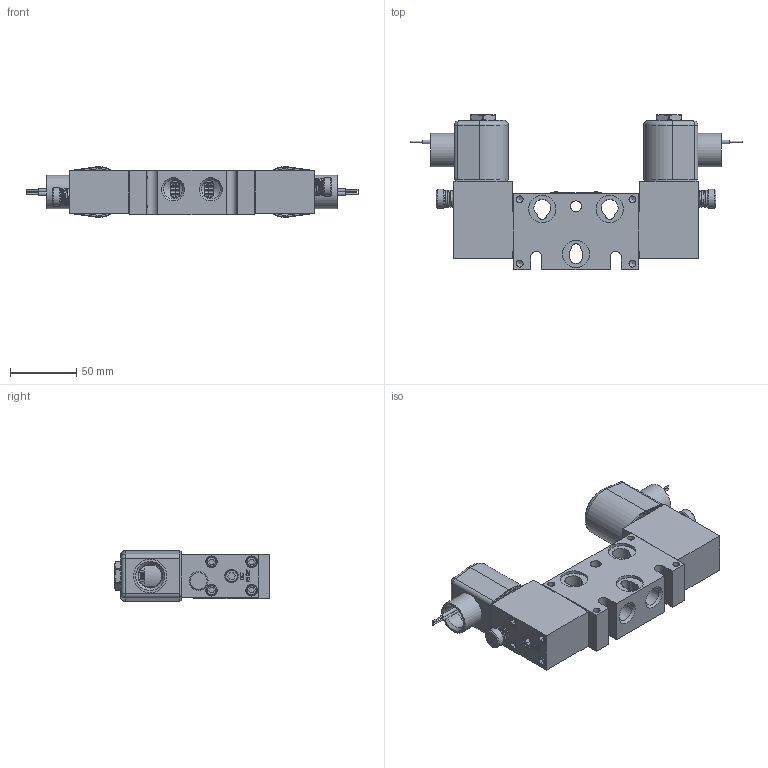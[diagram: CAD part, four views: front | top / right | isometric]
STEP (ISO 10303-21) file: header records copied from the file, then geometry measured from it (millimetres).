
FILE_DESCRIPTION(/* description */ (''),/* implementation_level */ '2;1');
FILE_NAME(/* name */ 'BSY3OPT.stp',/* time_stamp */ '2025-02-17T10:32:22-05:00',/* author */ ('rmckenna'),/* organization */ (''),/* preprocessor_version */ 'ST-DEVELOPER v20',/* originating_system */ 'Autodesk Inventor 2024',/* authorisation */ '');
FILE_SCHEMA (('AUTOMOTIVE_DESIGN { 1 0 10303 214 3 1 1 }'));
Products named in the file (1): Part21
Bounding box: 250.03 x 116.74 x 38.08 mm (x, y, z)
Volume: 384156.2 mm3; surface area: 153367.9 mm2
Topology: 6 solids, 36 shells, 1634 faces, 3833 edges, 2436 vertices
Faces by surface type: plane 756, cylinder 395, cone 248, torus 133, bspline 92, sphere 10
Full cylindrical faces by diameter (mm): 1.168 x4, 1.727 x6, 2.07 x2, 2.261 x2, 2.381 x2, 2.54 x4, 2.778 x11, 3.048 x4, 3.175 x2, 3.302 x2, 3.683 x9, 3.962 x2, 4.366 x4, 4.826 x16, 5.156 x12, 5.556 x8, 6.629 x2, 7.938 x8, 7.95 x4, 8.334 x1, 8.731 x8, 9.144 x2, 9.474 x6, 9.525 x3, 9.728 x1, 11.303 x3, 11.328 x2, 11.43 x2, 11.836 x2, 12.141 x1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
Entity records: 54177 total; most frequent: CARTESIAN_POINT 15255, DIRECTION 7645, ORIENTED_EDGE 7602, EDGE_CURVE 3801, AXIS2_PLACEMENT_3D 2868, VERTEX_POINT 2436, EDGE_LOOP 1913, LINE 1909
